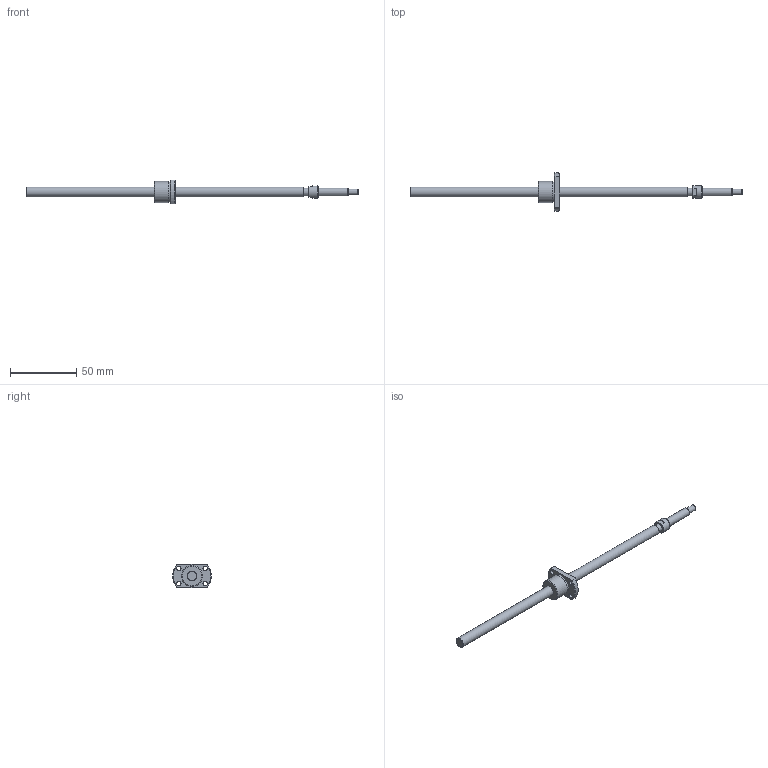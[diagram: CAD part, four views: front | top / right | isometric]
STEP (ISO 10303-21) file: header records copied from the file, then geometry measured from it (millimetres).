
FILE_DESCRIPTION(/* description */ ('STEP AP214'),/* implementation_level */ '2;1');
FILE_NAME(/* name */ 'SG0802.5-209R250C5A0X(96.5)',/* time_stamp */ '2026-07-21T16:47:58+02:00',/* author */ ('License CC BY-ND 4.0'),/* organization */ ('CADENAS'),/* preprocessor_version */ 'ST-DEVELOPER v20',/* originating_system */ 'PARTsolutions',/* authorisation */ ' ');
FILE_SCHEMA (('AUTOMOTIVE_DESIGN {1 0 10303 214 3 1 1}'));
Length unit declared in the file: millimetre
Products named in the file (3): SG0802.5-209R250C5A0X(96.5); SG0802.5-209R250C5A_shaft; SG0802.5 C5_nut
Assembly tree (2 placements, depth 2):
  SG0802.5-209R250C5A0X(96.5)
    SG0802.5-209R250C5A_shaft
    SG0802.5 C5_nut
Bounding box: 250 x 29 x 18 mm (x, y, z)
Volume: 13988.1 mm3; surface area: 8176.5 mm2
Topology: 2 solids, 2 shells, 44 faces, 93 edges, 60 vertices
Faces by surface type: plane 18, cylinder 16, cone 9, torus 1
Full cylindrical faces by diameter (mm): 3.4 x4, 4.5 x1, 6 x2, 7.5 x2, 9.5 x1, 15.7 x1, 16 x1
Entity records: 1198 total; most frequent: DIRECTION 205, CARTESIAN_POINT 204, ORIENTED_EDGE 148, AXIS2_PLACEMENT_3D 92, EDGE_LOOP 79, FACE_BOUND 79, EDGE_CURVE 74, VERTEX_POINT 59
